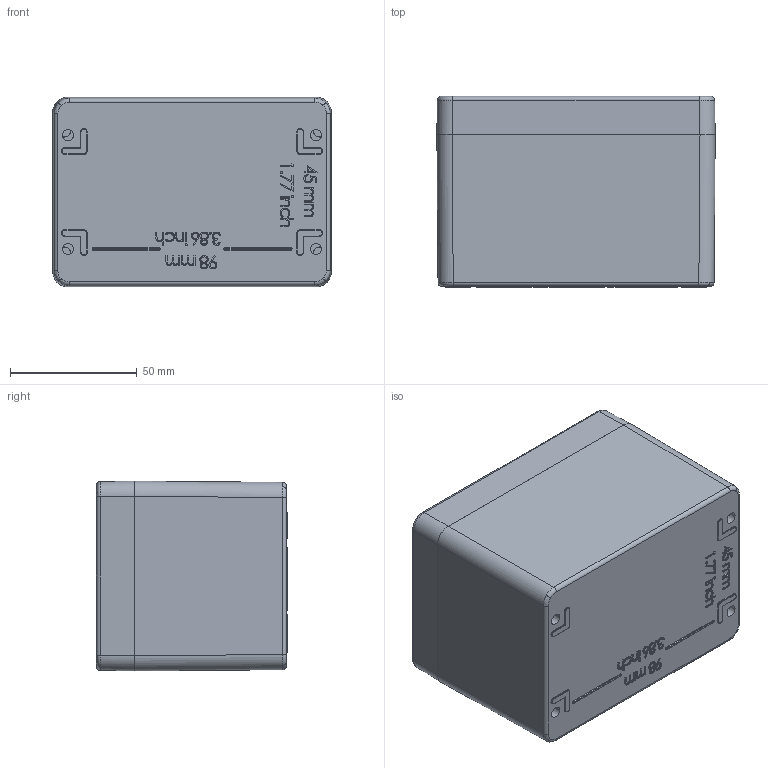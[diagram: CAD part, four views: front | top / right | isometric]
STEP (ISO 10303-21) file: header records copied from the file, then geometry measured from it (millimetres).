
FILE_DESCRIPTION (( 'STEP AP203' ), '1' );
FILE_NAME ('GRP ASSY 1107575.STEP', '2024-08-26T10:02:09', ( '' ), ( '' ), 'SwSTEP 2.0', 'SolidWorks 2018', '' );
FILE_SCHEMA (( 'CONFIG_CONTROL_DESIGN' ));
Length unit declared in the file: millimetre
Products named in the file (5): GRP LID 1107575; GRP ASSY 1107575; M4 BOTTOM INSERT; GRP BASE 1107575; M4 SS TOP INSERT
Assembly tree (12 placements, depth 2):
  GRP ASSY 1107575
    GRP BASE 1107575
    GRP LID 1107575
    M4 BOTTOM INSERT  x6
    M4 SS TOP INSERT  x4
Bounding box: 110 x 75.5 x 75 mm (x, y, z)
Volume: 209530.2 mm3; surface area: 93049.9 mm2
Topology: 12 solids, 12 shells, 1512 faces, 3873 edges, 2444 vertices
Faces by surface type: plane 440, cylinder 436, bspline 390, cone 202, torus 44
Entity records: 46719 total; most frequent: CARTESIAN_POINT 23865, ORIENTED_EDGE 5194, DIRECTION 3679, EDGE_CURVE 2597, VERTEX_POINT 1633, AXIS2_PLACEMENT_3D 1260, LINE 1159, VECTOR 1159
